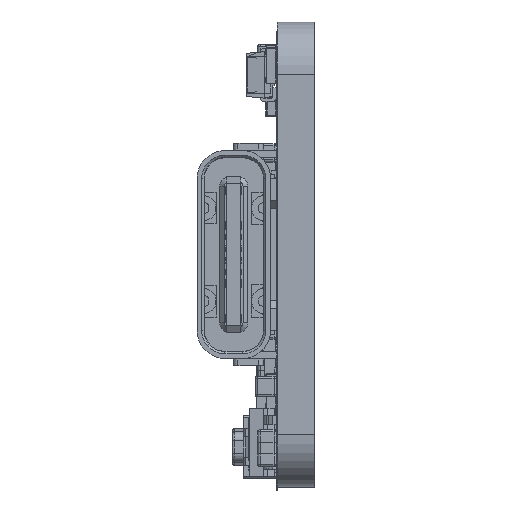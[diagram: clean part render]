
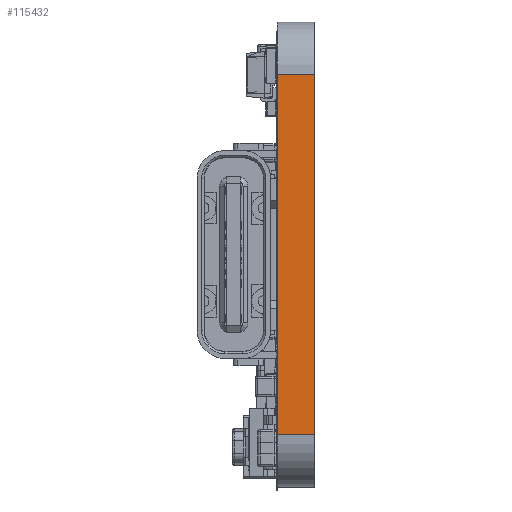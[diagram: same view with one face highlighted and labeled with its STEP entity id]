
A CAD part, left-side view. The second image highlights one B-rep face of the part: STEP entity #115432.
In plain terms, the highlighted planar face has unit normal (-1, 0, 0).
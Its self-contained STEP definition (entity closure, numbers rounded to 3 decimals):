
#5304 = LINE ( 'NONE', #268661, #5316 ) ;
#5316 = VECTOR ( 'NONE', #268718, 1000. ) ;
#5572 = LINE ( 'NONE', #268963, #5636 ) ;
#5636 = VECTOR ( 'NONE', #268948, 1000. ) ;
#13497 = ORIENTED_EDGE ( 'NONE', *, *, #33673, .T. ) ;
#13529 = ORIENTED_EDGE ( 'NONE', *, *, #96540, .F. ) ;
#13674 = ORIENTED_EDGE ( 'NONE', *, *, #33644, .F. ) ;
#13793 = ORIENTED_EDGE ( 'NONE', *, *, #96725, .T. ) ;
#33644 = EDGE_CURVE ( 'NONE', #199763, #199738, #225689, .T. ) ;
#33673 = EDGE_CURVE ( 'NONE', #199677, #199748, #225964, .T. ) ;
#96540 = EDGE_CURVE ( 'NONE', #199738, #199748, #5304, .T. ) ;
#96725 = EDGE_CURVE ( 'NONE', #199763, #199677, #5572, .T. ) ;
#115432 = ADVANCED_FACE ( 'NONE', ( #187808 ), #177722, .T. ) ;
#132044 = EDGE_LOOP ( 'NONE', ( #13529, #13674, #13793, #13497 ) ) ;
#177708 = DIRECTION ( 'NONE',  ( -1., 0., 0. ) ) ;
#177715 = CARTESIAN_POINT ( 'NONE',  ( 100., -1.6, -102.25 ) ) ;
#177718 = DIRECTION ( 'NONE',  ( 0., 0., 1. ) ) ;
#177722 = PLANE ( 'NONE',  #182715 ) ;
#182715 = AXIS2_PLACEMENT_3D ( 'NONE', #177715, #177708, #177718 ) ;
#187808 = FACE_OUTER_BOUND ( 'NONE', #132044, .T. ) ;
#199677 = VERTEX_POINT ( 'NONE', #248370 ) ;
#199738 = VERTEX_POINT ( 'NONE', #248630 ) ;
#199748 = VERTEX_POINT ( 'NONE', #248616 ) ;
#199763 = VERTEX_POINT ( 'NONE', #248557 ) ;
#225689 = LINE ( 'NONE', #241961, #225850 ) ;
#225850 = VECTOR ( 'NONE', #241926, 1000. ) ;
#225964 = LINE ( 'NONE', #241977, #226096 ) ;
#226096 = VECTOR ( 'NONE', #241986, 1000. ) ;
#241926 = DIRECTION ( 'NONE',  ( 0., 1., 0. ) ) ;
#241961 = CARTESIAN_POINT ( 'NONE',  ( 100., -1.6, -117.75 ) ) ;
#241977 = CARTESIAN_POINT ( 'NONE',  ( 100., -1.6, -102.25 ) ) ;
#241986 = DIRECTION ( 'NONE',  ( 0., 1., 0. ) ) ;
#248370 = CARTESIAN_POINT ( 'NONE',  ( 100., -1.6, -102.25 ) ) ;
#248557 = CARTESIAN_POINT ( 'NONE',  ( 100., -1.6, -117.75 ) ) ;
#248616 = CARTESIAN_POINT ( 'NONE',  ( 100., 0., -102.25 ) ) ;
#248630 = CARTESIAN_POINT ( 'NONE',  ( 100., 0., -117.75 ) ) ;
#268661 = CARTESIAN_POINT ( 'NONE',  ( 100., 0., -102.25 ) ) ;
#268718 = DIRECTION ( 'NONE',  ( 0., 0., 1. ) ) ;
#268948 = DIRECTION ( 'NONE',  ( 0., 0., 1. ) ) ;
#268963 = CARTESIAN_POINT ( 'NONE',  ( 100., -1.6, -102.25 ) ) ;
